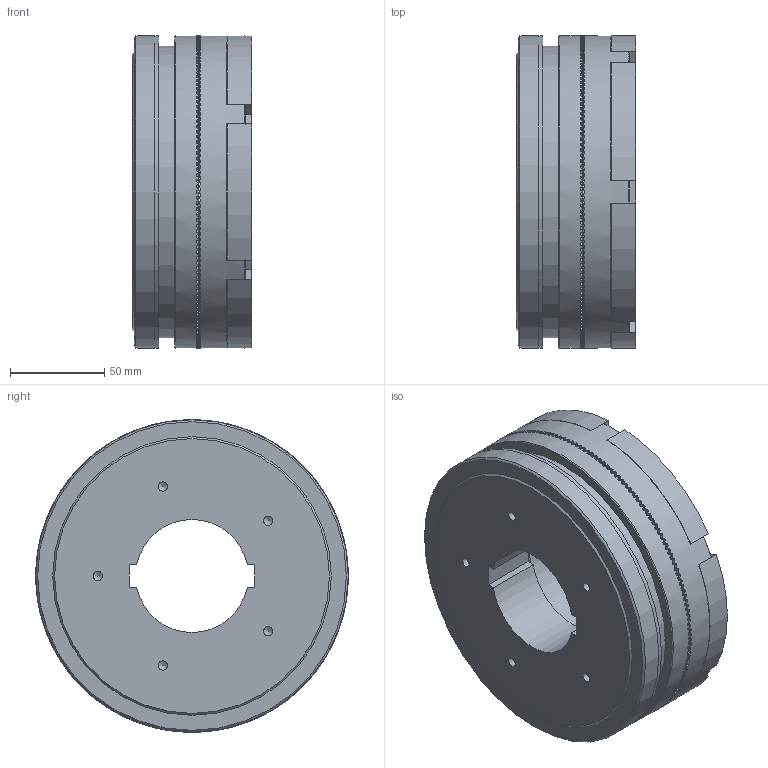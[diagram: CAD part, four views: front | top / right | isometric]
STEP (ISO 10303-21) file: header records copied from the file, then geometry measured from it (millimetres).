
FILE_DESCRIPTION(/* description */ (''),/* implementation_level */ '2;1');
FILE_NAME(/* name */ 'X:\INVENTOR\DISEGNI\07_Innesti_Elettmag_a_Dentini\07_01 EC_Z\07_01_167_01 EC167_Z\07_01_167_01 EC167_Z@STEP.stp',/* time_stamp */ '2023-02-07T14:41:04+01:00',/* author */ ('alessio'),/* organization */ (''),/* preprocessor_version */ 'ST-DEVELOPER v18.1',/* originating_system */ 'Autodesk Inventor 2021',/* authorisation */ '');
FILE_SCHEMA (('AUTOMOTIVE_DESIGN { 1 0 10303 214 3 1 1 }'));
Products named in the file (1): 07_01_167_01 EC167_Z
Bounding box: 63.5 x 166 x 166 mm (x, y, z)
Volume: 1052515.4 mm3; surface area: 145151.4 mm2
Topology: 2 solids, 3 shells, 1716 faces, 5039 edges, 3338 vertices
Faces by surface type: plane 1569, cylinder 82, bspline 39, cone 25, torus 1
Full cylindrical faces by diameter (mm): 4.917 x8, 7.9 x3, 8.5 x3, 12 x3, 13 x3, 80 x3, 108 x1, 132 x1, 150 x1, 153 x1, 154 x1, 155 x1, 166 x4
Entity records: 64261 total; most frequent: CARTESIAN_POINT 14193, DIRECTION 11286, ORIENTED_EDGE 10064, EDGE_CURVE 5032, AXIS2_PLACEMENT_3D 4695, VERTEX_POINT 3338, ELLIPSE 2061, LINE 1896
